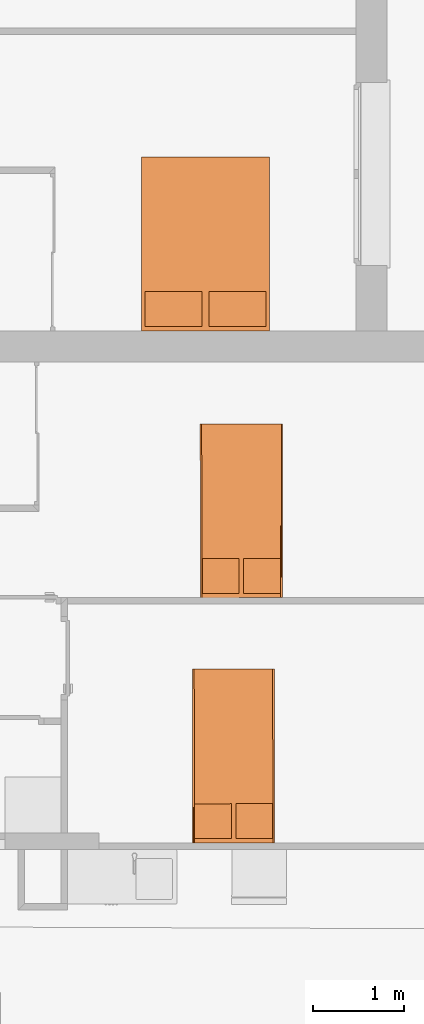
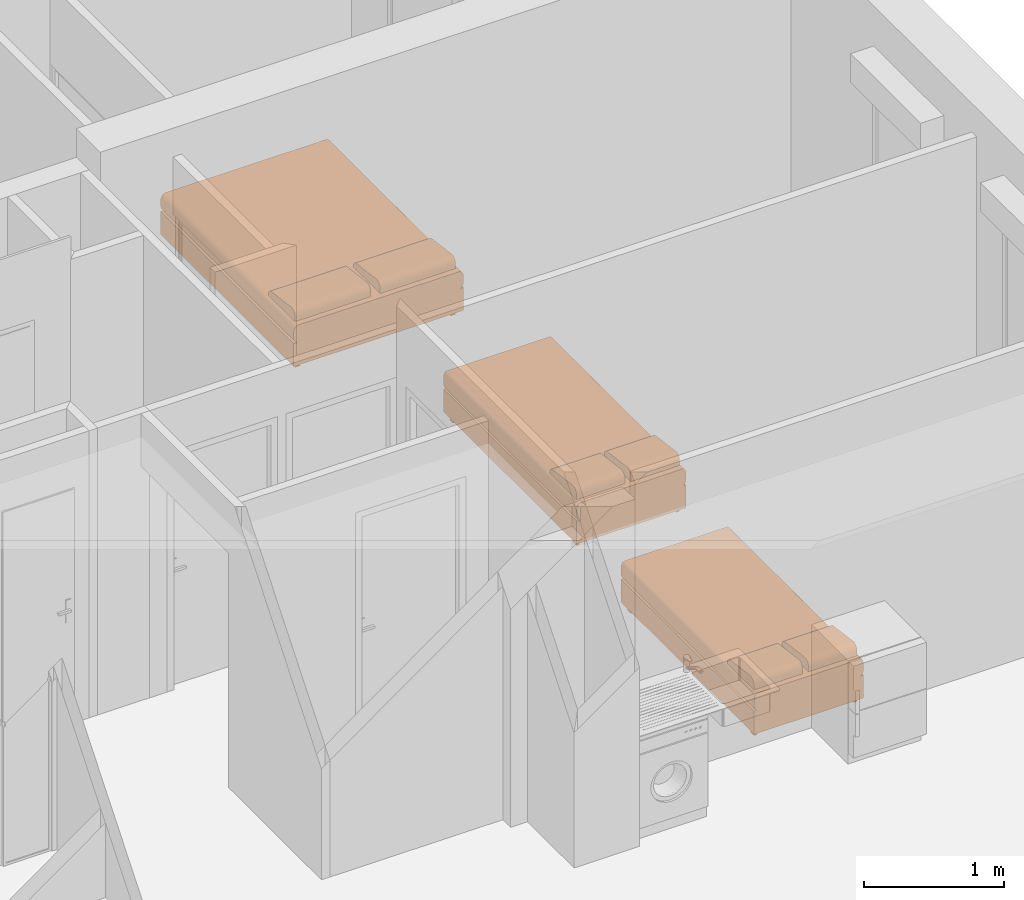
# One storey, part 142 of 164: 3 proxies.
"""IFC2X3 building model written with IfcOpenShell, lengths in millimetres."""

from ifc_helpers import new_model, entity, si_unit, converted_unit, derived_unit, money_unit, direction, frame, origin_with_axes, place, context, subcontext, project, spatial, open_shell, faceted_brep, surface_model, source, transform, mapped, type_object, element, save


model = new_model("IFC2X3")

# Units and contexts
model_context = context("Model", 3, precision=0.01, world=origin_with_axes(), true_north=direction((0.0, 1.0)))
body_context = subcontext(model_context, "Body", "Model", "MODEL_VIEW")
ifc_project = project(units=[si_unit("LENGTHUNIT", "METRE", prefix="MILLI"), si_unit("AREAUNIT", "SQUARE_METRE"), si_unit("VOLUMEUNIT", "CUBIC_METRE"), converted_unit("PLANEANGLEUNIT", "DEGREE", entity("IfcPlaneAngleMeasure", 0.0174532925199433), si_unit("PLANEANGLEUNIT", "RADIAN"), dimensions=[0, 0, 0, 0, 0, 0, 0]), money_unit("USD"), converted_unit("TIMEUNIT", "Year", entity("IfcTimeMeasure", 31557600.0), si_unit("TIMEUNIT", "SECOND"), dimensions=[0, 0, 1, 0, 0, 0, 0]), si_unit("MASSUNIT", "GRAM", prefix="KILO"), si_unit("THERMODYNAMICTEMPERATUREUNIT", "DEGREE_CELSIUS"), si_unit("LUMINOUSINTENSITYUNIT", "LUMEN"), si_unit("ENERGYUNIT", "JOULE", prefix="MEGA"), derived_unit("THERMALCONDUCTANCEUNIT", [(si_unit("POWERUNIT", "WATT"), 1), (si_unit("LENGTHUNIT", "METRE"), -1), (si_unit("THERMODYNAMICTEMPERATUREUNIT", "KELVIN"), -1)]), derived_unit("SPECIFICHEATCAPACITYUNIT", [(si_unit("ENERGYUNIT", "JOULE"), 1), (si_unit("MASSUNIT", "GRAM", prefix="KILO"), -1), (si_unit("THERMODYNAMICTEMPERATUREUNIT", "KELVIN"), -1)]), derived_unit("MASSDENSITYUNIT", [(si_unit("MASSUNIT", "GRAM", prefix="KILO"), 1), (si_unit("VOLUMEUNIT", "CUBIC_METRE"), -1)])], contexts=[model_context])

# Site, building, storey
site_placement = place(None, origin_with_axes())
site = spatial("IfcSite", under=ifc_project, at=site_placement, Name="Site", CompositionType="ELEMENT")
building_placement = place(site_placement, origin_with_axes())
building = spatial("IfcBuilding", under=site, at=building_placement, Name="Bâtiment", CompositionType="ELEMENT")
storey_placement = place(building_placement, frame((0.0, 0.0, 5750.0), z_axis=(0.0, 0.0, 1.0), x_axis=(1.0, 0.0, 0.0)))
storey = spatial("IfcBuildingStorey", under=building, at=storey_placement, Name="Etage1", CompositionType="ELEMENT", Elevation=5750.0)

# Proxies
building_element_proxy_type = type_object("IfcBuildingElementProxyType", PredefinedType="NOTDEFINED")
shared_shape_1 = source(origin_with_axes(), body_context, "Body", "SurfaceModel", [
    faceted_brep([(-400.0, -95.0, 0.0), (-425.0000000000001, -95.0, 0.0), (-425.0000000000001, -47.5, 0.0), (-400.0, -47.5, 0.0), (-400.0, -95.0, 50.0), (-425.0000000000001, -95.0, 50.0), (-425.0000000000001, -47.5, 50.0), (-400.0, -47.5, 50.0)], [[[0, 1, 2, 3]], [[1, 0, 4, 5]], [[2, 1, 5, 6]], [[3, 2, 6, 7]], [[0, 3, 7, 4]], [[5, 4, 7, 6]]]),
    faceted_brep([(-400.0, -1852.5, 0.0), (-425.0000000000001, -1852.5, 0.0), (-425.0000000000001, -1805.0, 0.0), (-400.0, -1805.0, 0.0), (-400.0, -1852.5, 50.0), (-425.0000000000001, -1852.5, 50.0), (-425.0000000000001, -1805.0, 50.0), (-400.0, -1805.0, 50.0)], [[[0, 1, 2, 3]], [[1, 0, 4, 5]], [[2, 1, 5, 6]], [[3, 2, 6, 7]], [[0, 3, 7, 4]], [[5, 4, 7, 6]]]),
    faceted_brep([(425.0000000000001, -1852.5, 0.0), (400.0, -1852.5, 0.0), (400.0, -1805.0, 0.0), (425.0000000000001, -1805.0, 0.0), (425.0000000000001, -1852.5, 50.0), (400.0, -1852.5, 50.0), (400.0, -1805.0, 50.0), (425.0000000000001, -1805.0, 50.0)], [[[0, 1, 2, 3]], [[1, 0, 4, 5]], [[2, 1, 5, 6]], [[3, 2, 6, 7]], [[0, 3, 7, 4]], [[5, 4, 7, 6]]]),
    faceted_brep([(425.0000000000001, -94.99999999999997, 0.0), (400.0, -94.99999999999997, 0.0), (400.0, -47.49999999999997, 0.0), (425.0000000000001, -47.49999999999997, 0.0), (425.0000000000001, -94.99999999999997, 50.0), (400.0, -94.99999999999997, 50.0), (400.0, -47.49999999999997, 50.0), (425.0000000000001, -47.49999999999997, 50.0)], [[[0, 1, 2, 3]], [[1, 0, 4, 5]], [[2, 1, 5, 6]], [[3, 2, 6, 7]], [[0, 3, 7, 4]], [[5, 4, 7, 6]]]),
    faceted_brep([(-450.0, 0.0, 50.0), (450.0, 0.0, 50.0), (450.0, -1900.0, 50.00000000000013), (-450.0, -1900.0, 50.00000000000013), (-450.0, 0.0, 250.0), (450.0, 0.0, 250.0), (450.0, -1900.0, 250.0000000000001), (-450.0, -1900.0, 250.0000000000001)], [[[0, 1, 2, 3]], [[0, 4, 5, 1]], [[1, 5, 6, 2]], [[3, 2, 6, 7]], [[4, 0, 3, 7]], [[5, 4, 7, 6]]]),
    surface_model("IfcShellBasedSurfaceModel", [(425.0000000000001, 0.0, 250.0), (429.3412044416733, 0.0, 250.7596123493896), (429.3412044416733, -1900.0, 250.7596123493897), (425.0000000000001, -1900.0, 250.0000000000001), (-425.0000000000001, 0.0, 250.0), (-429.3412044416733, 0.0, 250.7596123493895), (-433.5505035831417, 0.0, 253.0153689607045), (-437.5, 0.0, 256.698729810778), (-441.0696902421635, 0.0, 261.6977778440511), (-444.1511110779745, 0.0, 267.860619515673), (-446.650635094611, 0.0, 275.0), (-448.4923155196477, 0.0, 282.8989928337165), (-449.6201938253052, 0.0, 291.3175911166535), (-450.0, 0.0, 300.0000000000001), (-450.0000000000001, 0.0, 350.0), (-449.6201938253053, 0.0, 358.6824088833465), (-448.4923155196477, 0.0, 367.1010071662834), (-446.650635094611, 0.0, 375.0), (-444.1511110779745, 0.0, 382.139380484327), (-441.0696902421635, 0.0, 388.3022221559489), (-437.5000000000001, 0.0, 393.301270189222), (-433.5505035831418, 0.0, 396.9846310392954), (-429.3412044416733, 0.0, 399.2403876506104), (-425.0000000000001, 0.0, 400.0), (425.0, 0.0, 400.0000000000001), (429.3412044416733, 0.0, 399.2403876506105), (433.5505035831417, 0.0, 396.9846310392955), (437.5, 0.0, 393.301270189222), (441.0696902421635, 0.0, 388.3022221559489), (444.1511110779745, 0.0, 382.139380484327), (446.6506350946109, 0.0, 375.0000000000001), (448.4923155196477, 0.0, 367.1010071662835), (449.6201938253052, 0.0, 358.6824088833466), (450.0, 0.0, 350.0000000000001), (450.0, 0.0, 300.0000000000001), (449.6201938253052, 0.0, 291.3175911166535), (448.4923155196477, 0.0, 282.8989928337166), (446.650635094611, 0.0, 275.0), (444.1511110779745, 0.0, 267.8606195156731), (441.0696902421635, 0.0, 261.6977778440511), (437.5000000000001, 0.0, 256.698729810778), (433.5505035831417, 0.0, 253.0153689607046), (433.5505035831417, -1900.0, 253.0153689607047), (-425.0000000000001, -1900.0, 250.0000000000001), (437.5000000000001, -1900.0, 256.6987298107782), (441.0696902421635, -1900.0, 261.6977778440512), (444.1511110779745, -1900.0, 267.8606195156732), (446.650635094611, -1900.0, 275.0000000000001), (448.4923155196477, -1900.0, 282.8989928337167), (449.6201938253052, -1900.0, 291.3175911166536), (450.0, -1900.0, 300.0000000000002), (450.0, -1900.0, 350.0000000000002), (449.6201938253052, -1900.0, 358.6824088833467), (448.4923155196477, -1900.0, 367.1010071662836), (446.6506350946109, -1900.0, 375.0000000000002), (444.1511110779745, -1900.0, 382.1393804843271), (441.0696902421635, -1900.0, 388.302222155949), (437.5, -1900.0, 393.3012701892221), (433.5505035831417, -1900.0, 396.9846310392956), (429.3412044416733, -1900.0, 399.2403876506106), (425.0, -1900.0, 400.0000000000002), (-425.0000000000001, -1900.0, 400.0000000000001), (-429.3412044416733, -1900.0, 399.2403876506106), (-433.5505035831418, -1900.0, 396.9846310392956), (-437.5000000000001, -1900.0, 393.3012701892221), (-441.0696902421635, -1900.0, 388.302222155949), (-444.1511110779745, -1900.0, 382.1393804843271), (-446.650635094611, -1900.0, 375.0000000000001), (-448.4923155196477, -1900.0, 367.1010071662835), (-449.6201938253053, -1900.0, 358.6824088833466), (-450.0000000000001, -1900.0, 350.0000000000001), (-450.0, -1900.0, 300.0000000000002), (-449.6201938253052, -1900.0, 291.3175911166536), (-448.4923155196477, -1900.0, 282.8989928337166), (-446.650635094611, -1900.0, 275.0000000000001), (-444.1511110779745, -1900.0, 267.8606195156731), (-441.0696902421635, -1900.0, 261.6977778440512), (-437.5, -1900.0, 256.6987298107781), (-433.5505035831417, -1900.0, 253.0153689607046), (-429.3412044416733, -1900.0, 250.7596123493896)], [open_shell([[[0, 1, 2, 3]], [[4, 5, 6, 7, 8, 9, 10, 11, 12, 13, 14, 15, 16, 17, 18, 19, 20, 21, 22, 23, 24, 25, 26, 27, 28, 29, 30, 31, 32, 33, 34, 35, 36, 37, 38, 39, 40, 41, 1, 0]], [[1, 41, 42, 2]], [[43, 3, 2, 42, 44, 45, 46, 47, 48, 49, 50, 51, 52, 53, 54, 55, 56, 57, 58, 59, 60, 61, 62, 63, 64, 65, 66, 67, 68, 69, 70, 71, 72, 73, 74, 75, 76, 77, 78, 79]], [[5, 4, 43, 79]], [[6, 5, 79, 78]], [[7, 6, 78, 77]], [[8, 7, 77, 76]], [[9, 8, 76, 75]], [[10, 9, 75, 74]], [[11, 10, 74, 73]], [[12, 11, 73, 72]], [[13, 12, 72, 71]], [[14, 13, 71, 70]], [[15, 14, 70, 69]], [[16, 15, 69, 68]], [[17, 16, 68, 67]], [[18, 17, 67, 66]], [[19, 18, 66, 65]], [[20, 19, 65, 64]], [[21, 20, 64, 63]], [[22, 21, 63, 62]], [[23, 22, 62, 61]], [[24, 23, 61, 60]], [[25, 24, 60, 59]], [[26, 25, 59, 58]], [[27, 26, 58, 57]], [[28, 27, 57, 56]], [[29, 28, 56, 55]], [[30, 29, 55, 54]], [[31, 30, 54, 53]], [[32, 31, 53, 52]], [[33, 32, 52, 51]], [[34, 33, 51, 50]], [[35, 34, 50, 49]], [[36, 35, 49, 48]], [[37, 36, 48, 47]], [[38, 37, 47, 46]], [[39, 38, 46, 45]], [[40, 39, 45, 44]], [[41, 40, 44, 42]]])]),
    faceted_brep([(24.99999999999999, -47.49999999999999, 400.0), (24.99999999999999, -47.49999999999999, 443.4), (425.0, -47.50000000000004, 443.4000000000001), (425.0, -47.50000000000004, 400.0000000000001), (24.99999999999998, -427.5, 400.0), (24.99999999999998, -427.6960812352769, 408.695442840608), (24.99999999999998, -426.4675711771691, 417.2966661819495), (24.99999999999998, -423.8511300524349, 425.5469991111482), (24.99999999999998, -419.9248356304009, 433.2002417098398), (24.99999999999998, -414.8058532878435, 440.0280119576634), (24.99999999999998, -408.6469396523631, 445.826560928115), (24.99999999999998, -401.6318841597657, 450.4228529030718), (24.99999999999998, -393.9700245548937, 453.6797289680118), (24.99999999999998, -385.89, 455.5), (24.99999999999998, -100.89, 493.0000000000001), (24.99999999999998, -92.85488048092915, 493.3370808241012), (24.99999999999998, -84.88093291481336, 492.2422169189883), (24.99999999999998, -77.19681007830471, 489.7468034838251), (24.99999999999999, -70.02285403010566, 485.922396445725), (24.99999999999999, -63.56477780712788, 480.878660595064), (24.99999999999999, -58.00776660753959, 474.7602249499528), (24.99999999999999, -53.51116760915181, 467.7425355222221), (24.99999999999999, -50.20392069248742, 460.0268244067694), (24.99999999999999, -48.18086109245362, 451.834339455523), (425.0, -48.18086109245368, 451.8343394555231), (425.0, -50.20392069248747, 460.0268244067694), (425.0, -53.51116760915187, 467.7425355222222), (425.0, -58.00776660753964, 474.7602249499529), (425.0, -63.56477780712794, 480.878660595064), (425.0, -70.02285403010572, 485.922396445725), (425.0, -77.19681007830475, 489.7468034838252), (425.0, -84.88093291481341, 492.2422169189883), (425.0, -92.85488048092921, 493.3370808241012), (425.0, -100.8900000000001, 493.0000000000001), (425.0, -385.89, 455.5000000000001), (425.0, -393.9700245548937, 453.6797289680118), (425.0, -401.6318841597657, 450.4228529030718), (425.0, -408.6469396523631, 445.826560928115), (425.0, -414.8058532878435, 440.0280119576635), (425.0, -419.924835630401, 433.2002417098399), (425.0, -423.8511300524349, 425.5469991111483), (425.0, -426.4675711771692, 417.2966661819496), (425.0, -427.6960812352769, 408.6954428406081), (425.0, -427.5, 400.0000000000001)], [[[0, 1, 2, 3]], [[0, 4, 5, 6, 7, 8, 9, 10, 11, 12, 13, 14, 15, 16, 17, 18, 19, 20, 21, 22, 23, 1]], [[1, 23, 24, 2]], [[3, 2, 24, 25, 26, 27, 28, 29, 30, 31, 32, 33, 34, 35, 36, 37, 38, 39, 40, 41, 42, 43]], [[4, 0, 3, 43]], [[5, 4, 43, 42]], [[6, 5, 42, 41]], [[7, 6, 41, 40]], [[8, 7, 40, 39]], [[9, 8, 39, 38]], [[10, 9, 38, 37]], [[11, 10, 37, 36]], [[12, 11, 36, 35]], [[13, 12, 35, 34]], [[14, 13, 34, 33]], [[15, 14, 33, 32]], [[16, 15, 32, 31]], [[17, 16, 31, 30]], [[18, 17, 30, 29]], [[19, 18, 29, 28]], [[20, 19, 28, 27]], [[21, 20, 27, 26]], [[22, 21, 26, 25]], [[23, 22, 25, 24]]]),
    faceted_brep([(-425.0000000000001, -47.49999999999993, 399.9999999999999), (-425.0000000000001, -47.49999999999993, 443.4), (-25.00000000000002, -47.49999999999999, 443.4), (-25.00000000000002, -47.49999999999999, 400.0), (-425.0000000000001, -427.4999999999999, 399.9999999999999), (-425.0000000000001, -427.6960812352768, 408.6954428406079), (-425.0000000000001, -426.4675711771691, 417.2966661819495), (-425.0000000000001, -423.8511300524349, 425.5469991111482), (-425.0000000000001, -419.9248356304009, 433.2002417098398), (-425.0000000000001, -414.8058532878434, 440.0280119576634), (-425.0000000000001, -408.646939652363, 445.8265609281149), (-425.0000000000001, -401.6318841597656, 450.4228529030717), (-425.0000000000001, -393.9700245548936, 453.6797289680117), (-425.0000000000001, -385.8899999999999, 455.4999999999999), (-425.0000000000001, -100.89, 493.0), (-425.0000000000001, -92.8548804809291, 493.3370808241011), (-425.0000000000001, -84.8809329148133, 492.2422169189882), (-425.0000000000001, -77.19681007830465, 489.7468034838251), (-425.0000000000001, -70.0228540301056, 485.9223964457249), (-425.0000000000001, -63.56477780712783, 480.8786605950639), (-425.0000000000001, -58.00776660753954, 474.7602249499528), (-425.0000000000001, -53.51116760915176, 467.7425355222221), (-425.0000000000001, -50.20392069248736, 460.0268244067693), (-425.0000000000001, -48.18086109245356, 451.834339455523), (-25.00000000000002, -48.18086109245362, 451.834339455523), (-25.00000000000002, -50.20392069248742, 460.0268244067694), (-25.00000000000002, -53.51116760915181, 467.7425355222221), (-25.00000000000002, -58.00776660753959, 474.7602249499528), (-25.00000000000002, -63.56477780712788, 480.878660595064), (-25.00000000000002, -70.02285403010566, 485.922396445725), (-25.00000000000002, -77.19681007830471, 489.7468034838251), (-25.00000000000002, -84.88093291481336, 492.2422169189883), (-25.00000000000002, -92.85488048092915, 493.3370808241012), (-25.00000000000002, -100.89, 493.0000000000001), (-25.00000000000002, -385.8899999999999, 455.5), (-25.00000000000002, -393.9700245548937, 453.6797289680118), (-25.00000000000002, -401.6318841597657, 450.4228529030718), (-25.00000000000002, -408.6469396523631, 445.826560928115), (-25.00000000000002, -414.8058532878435, 440.0280119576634), (-25.00000000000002, -419.9248356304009, 433.2002417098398), (-25.00000000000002, -423.8511300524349, 425.5469991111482), (-25.00000000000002, -426.4675711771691, 417.2966661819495), (-25.00000000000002, -427.6960812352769, 408.695442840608), (-25.00000000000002, -427.4999999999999, 400.0)], [[[0, 1, 2, 3]], [[0, 4, 5, 6, 7, 8, 9, 10, 11, 12, 13, 14, 15, 16, 17, 18, 19, 20, 21, 22, 23, 1]], [[1, 23, 24, 2]], [[3, 2, 24, 25, 26, 27, 28, 29, 30, 31, 32, 33, 34, 35, 36, 37, 38, 39, 40, 41, 42, 43]], [[4, 0, 3, 43]], [[5, 4, 43, 42]], [[6, 5, 42, 41]], [[7, 6, 41, 40]], [[8, 7, 40, 39]], [[9, 8, 39, 38]], [[10, 9, 38, 37]], [[11, 10, 37, 36]], [[12, 11, 36, 35]], [[13, 12, 35, 34]], [[14, 13, 34, 33]], [[15, 14, 33, 32]], [[16, 15, 32, 31]], [[17, 16, 31, 30]], [[18, 17, 30, 29]], [[19, 18, 29, 28]], [[20, 19, 28, 27]], [[21, 20, 27, 26]], [[22, 21, 26, 25]], [[23, 22, 25, 24]]]),
])
for number, where, z_axis, x_axis, name in (
    (1, (2231211.776002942, -649659.8657158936, 0.0), (0.0, 0.0, 1.0), (-0.9999998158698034, -0.0006068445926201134, 0.0), "Obj.-003"),
    (2, (2231125.570279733, -652341.7887185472, 0.0), (0.0, 0.0, 1.0), (-0.9999998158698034, -0.0006068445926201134, 0.0), "Obj.-003"),
):
    element("IfcBuildingElementProxy", number, at=place(storey_placement, frame(where, z_axis=z_axis, x_axis=x_axis)), inside=storey, type_object=building_element_proxy_type, Name=name, context=body_context, shape_type="MappedRepresentation", body=[
        mapped(shared_shape_1, transform((0.0, 0.0, 0.0))),
    ])
shared_shape_2 = source(origin_with_axes(), body_context, "Body", "SurfaceModel", [
    faceted_brep([(622.2222222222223, -95.0, 0.0), (622.2222222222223, -47.5, 0.0), (661.1111111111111, -47.5, 0.0), (661.1111111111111, -95.0, 0.0), (622.2222222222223, -95.0, 50.0), (622.2222222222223, -47.5, 50.0), (661.1111111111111, -47.5, 50.0), (661.1111111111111, -95.0, 50.0)], [[[0, 1, 2, 3]], [[0, 4, 5, 1]], [[1, 5, 6, 2]], [[2, 6, 7, 3]], [[3, 7, 4, 0]], [[7, 6, 5, 4]]]),
    faceted_brep([(622.2222222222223, -1852.5, 0.0), (622.2222222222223, -1805.0, 0.0), (661.1111111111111, -1805.0, 0.0), (661.1111111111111, -1852.5, 0.0), (622.2222222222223, -1852.5, 50.0), (622.2222222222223, -1805.0, 50.0), (661.1111111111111, -1805.0, 50.0), (661.1111111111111, -1852.5, 50.0)], [[[0, 1, 2, 3]], [[0, 4, 5, 1]], [[1, 5, 6, 2]], [[2, 6, 7, 3]], [[3, 7, 4, 0]], [[7, 6, 5, 4]]]),
    faceted_brep([(-661.111111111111, -1852.5, 0.0), (-661.111111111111, -1805.0, 0.0), (-622.2222222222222, -1805.0, 0.0), (-622.2222222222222, -1852.5, 0.0), (-661.111111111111, -1852.5, 50.0), (-661.111111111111, -1805.0, 50.0), (-622.2222222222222, -1805.0, 50.0), (-622.2222222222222, -1852.5, 50.0)], [[[0, 1, 2, 3]], [[0, 4, 5, 1]], [[1, 5, 6, 2]], [[2, 6, 7, 3]], [[3, 7, 4, 0]], [[7, 6, 5, 4]]]),
    faceted_brep([(-661.111111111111, -94.99999999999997, 0.0), (-661.111111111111, -47.49999999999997, 0.0), (-622.2222222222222, -47.49999999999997, 0.0), (-622.2222222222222, -94.99999999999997, 0.0), (-661.111111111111, -94.99999999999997, 50.0), (-661.111111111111, -47.49999999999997, 50.0), (-622.2222222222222, -47.49999999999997, 50.0), (-622.2222222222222, -94.99999999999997, 50.0)], [[[0, 1, 2, 3]], [[0, 4, 5, 1]], [[1, 5, 6, 2]], [[2, 6, 7, 3]], [[3, 7, 4, 0]], [[7, 6, 5, 4]]]),
    faceted_brep([(700.0, 0.0, 50.0), (700.0, -1900.0, 50.00000000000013), (-700.0, -1900.0, 50.00000000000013), (-700.0, 0.0, 50.0), (700.0, 0.0, 250.0), (700.0, -1900.0, 250.0000000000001), (-700.0, -1900.0, 250.0000000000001), (-700.0, 0.0, 250.0)], [[[0, 1, 2, 3]], [[4, 5, 1, 0]], [[1, 5, 6, 2]], [[3, 2, 6, 7]], [[0, 3, 7, 4]], [[7, 6, 5, 4]]]),
    surface_model("IfcShellBasedSurfaceModel", [(-661.1111111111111, 0.0, 250.0), (-661.1111111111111, -1900.0, 250.0000000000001), (-667.8640957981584, -1900.0, 250.7596123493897), (-667.8640957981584, 0.0, 250.7596123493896), (661.1111111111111, -1900.0, 250.0000000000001), (667.8640957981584, -1900.0, 250.7596123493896), (674.4118944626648, -1900.0, 253.0153689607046), (680.5555555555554, -1900.0, 256.6987298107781), (686.1084070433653, -1900.0, 261.6977778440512), (690.9017283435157, -1900.0, 267.8606195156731), (694.7898768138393, -1900.0, 275.0000000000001), (697.654713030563, -1900.0, 282.8989928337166), (699.4091903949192, -1900.0, 291.3175911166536), (700.0, -1900.0, 300.0000000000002), (700.0000000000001, -1900.0, 350.0000000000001), (699.4091903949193, -1900.0, 358.6824088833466), (697.654713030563, -1900.0, 367.1010071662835), (694.7898768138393, -1900.0, 375.0000000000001), (690.9017283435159, -1900.0, 382.1393804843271), (686.1084070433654, -1900.0, 388.302222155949), (680.5555555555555, -1900.0, 393.3012701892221), (674.4118944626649, -1900.0, 396.9846310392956), (667.8640957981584, -1900.0, 399.2403876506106), (661.1111111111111, -1900.0, 400.0000000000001), (-661.111111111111, -1900.0, 400.0000000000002), (-667.8640957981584, -1900.0, 399.2403876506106), (-674.4118944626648, -1900.0, 396.9846310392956), (-680.5555555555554, -1900.0, 393.3012701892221), (-686.1084070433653, -1900.0, 388.302222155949), (-690.9017283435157, -1900.0, 382.1393804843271), (-694.7898768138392, -1900.0, 375.0000000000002), (-697.654713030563, -1900.0, 367.1010071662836), (-699.4091903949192, -1900.0, 358.6824088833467), (-700.0, -1900.0, 350.0000000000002), (-700.0, -1900.0, 300.0000000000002), (-699.4091903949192, -1900.0, 291.3175911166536), (-697.654713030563, -1900.0, 282.8989928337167), (-694.7898768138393, -1900.0, 275.0000000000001), (-690.9017283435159, -1900.0, 267.8606195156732), (-686.1084070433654, -1900.0, 261.6977778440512), (-680.5555555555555, -1900.0, 256.6987298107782), (-674.4118944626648, -1900.0, 253.0153689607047), (-674.4118944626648, 0.0, 253.0153689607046), (661.1111111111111, 0.0, 250.0), (-680.5555555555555, 0.0, 256.698729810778), (-686.1084070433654, 0.0, 261.6977778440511), (-690.9017283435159, 0.0, 267.8606195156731), (-694.7898768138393, 0.0, 275.0), (-697.654713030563, 0.0, 282.8989928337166), (-699.4091903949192, 0.0, 291.3175911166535), (-700.0, 0.0, 300.0000000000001), (-700.0, 0.0, 350.0000000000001), (-699.4091903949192, 0.0, 358.6824088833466), (-697.654713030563, 0.0, 367.1010071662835), (-694.7898768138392, 0.0, 375.0000000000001), (-690.9017283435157, 0.0, 382.139380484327), (-686.1084070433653, 0.0, 388.3022221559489), (-680.5555555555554, 0.0, 393.301270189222), (-674.4118944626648, 0.0, 396.9846310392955), (-667.8640957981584, 0.0, 399.2403876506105), (-661.111111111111, 0.0, 400.0000000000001), (661.1111111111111, 0.0, 400.0), (667.8640957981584, 0.0, 399.2403876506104), (674.4118944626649, 0.0, 396.9846310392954), (680.5555555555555, 0.0, 393.301270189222), (686.1084070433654, 0.0, 388.3022221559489), (690.9017283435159, 0.0, 382.139380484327), (694.7898768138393, 0.0, 375.0), (697.654713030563, 0.0, 367.1010071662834), (699.4091903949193, 0.0, 358.6824088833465), (700.0000000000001, 0.0, 350.0), (700.0, 0.0, 300.0000000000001), (699.4091903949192, 0.0, 291.3175911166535), (697.654713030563, 0.0, 282.8989928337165), (694.7898768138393, 0.0, 275.0), (690.9017283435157, 0.0, 267.860619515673), (686.1084070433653, 0.0, 261.6977778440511), (680.5555555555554, 0.0, 256.698729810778), (674.4118944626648, 0.0, 253.0153689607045), (667.8640957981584, 0.0, 250.7596123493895)], [open_shell([[[0, 1, 2, 3]], [[4, 5, 6, 7, 8, 9, 10, 11, 12, 13, 14, 15, 16, 17, 18, 19, 20, 21, 22, 23, 24, 25, 26, 27, 28, 29, 30, 31, 32, 33, 34, 35, 36, 37, 38, 39, 40, 41, 2, 1]], [[3, 2, 41, 42]], [[43, 0, 3, 42, 44, 45, 46, 47, 48, 49, 50, 51, 52, 53, 54, 55, 56, 57, 58, 59, 60, 61, 62, 63, 64, 65, 66, 67, 68, 69, 70, 71, 72, 73, 74, 75, 76, 77, 78, 79]], [[79, 5, 4, 43]], [[78, 6, 5, 79]], [[77, 7, 6, 78]], [[76, 8, 7, 77]], [[75, 9, 8, 76]], [[74, 10, 9, 75]], [[73, 11, 10, 74]], [[72, 12, 11, 73]], [[71, 13, 12, 72]], [[70, 14, 13, 71]], [[69, 15, 14, 70]], [[68, 16, 15, 69]], [[67, 17, 16, 68]], [[66, 18, 17, 67]], [[65, 19, 18, 66]], [[64, 20, 19, 65]], [[63, 21, 20, 64]], [[62, 22, 21, 63]], [[61, 23, 22, 62]], [[60, 24, 23, 61]], [[59, 25, 24, 60]], [[58, 26, 25, 59]], [[57, 27, 26, 58]], [[56, 28, 27, 57]], [[55, 29, 28, 56]], [[54, 30, 29, 55]], [[53, 31, 30, 54]], [[52, 32, 31, 53]], [[51, 33, 32, 52]], [[50, 34, 33, 51]], [[49, 35, 34, 50]], [[48, 36, 35, 49]], [[47, 37, 36, 48]], [[46, 38, 37, 47]], [[45, 39, 38, 46]], [[44, 40, 39, 45]], [[42, 41, 40, 44]]])]),
    faceted_brep([(-38.88888888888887, -47.49999999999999, 400.0), (-661.1111111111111, -47.50000000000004, 400.0000000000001), (-661.1111111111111, -47.50000000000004, 443.4000000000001), (-38.88888888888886, -47.49999999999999, 443.4), (-38.88888888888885, -427.5, 400.0), (-661.1111111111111, -427.5, 400.0000000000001), (-661.1111111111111, -427.6960812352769, 408.6954428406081), (-661.1111111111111, -426.4675711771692, 417.2966661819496), (-661.1111111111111, -423.8511300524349, 425.5469991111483), (-661.1111111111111, -419.924835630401, 433.2002417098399), (-661.1111111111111, -414.8058532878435, 440.0280119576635), (-661.1111111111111, -408.6469396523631, 445.826560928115), (-661.1111111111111, -401.6318841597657, 450.4228529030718), (-661.1111111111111, -393.9700245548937, 453.6797289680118), (-661.1111111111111, -385.89, 455.5000000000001), (-661.1111111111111, -100.8900000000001, 493.0000000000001), (-661.1111111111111, -92.85488048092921, 493.3370808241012), (-661.1111111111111, -84.88093291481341, 492.2422169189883), (-661.1111111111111, -77.19681007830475, 489.7468034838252), (-661.1111111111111, -70.02285403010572, 485.922396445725), (-661.1111111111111, -63.56477780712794, 480.878660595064), (-661.1111111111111, -58.00776660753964, 474.7602249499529), (-661.1111111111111, -53.51116760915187, 467.7425355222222), (-661.1111111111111, -50.20392069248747, 460.0268244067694), (-661.1111111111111, -48.18086109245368, 451.8343394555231), (-38.88888888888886, -48.18086109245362, 451.834339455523), (-38.88888888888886, -50.20392069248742, 460.0268244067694), (-38.88888888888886, -53.51116760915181, 467.7425355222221), (-38.88888888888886, -58.00776660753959, 474.7602249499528), (-38.88888888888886, -63.56477780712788, 480.878660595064), (-38.88888888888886, -70.02285403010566, 485.922396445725), (-38.88888888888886, -77.19681007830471, 489.7468034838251), (-38.88888888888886, -84.88093291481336, 492.2422169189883), (-38.88888888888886, -92.85488048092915, 493.3370808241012), (-38.88888888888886, -100.89, 493.0000000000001), (-38.88888888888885, -385.89, 455.5), (-38.88888888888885, -393.9700245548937, 453.6797289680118), (-38.88888888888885, -401.6318841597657, 450.4228529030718), (-38.88888888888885, -408.6469396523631, 445.826560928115), (-38.88888888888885, -414.8058532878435, 440.0280119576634), (-38.88888888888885, -419.9248356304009, 433.2002417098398), (-38.88888888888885, -423.8511300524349, 425.5469991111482), (-38.88888888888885, -426.4675711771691, 417.2966661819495), (-38.88888888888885, -427.6960812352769, 408.695442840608)], [[[0, 1, 2, 3]], [[4, 5, 1, 0]], [[1, 5, 6, 7, 8, 9, 10, 11, 12, 13, 14, 15, 16, 17, 18, 19, 20, 21, 22, 23, 24, 2]], [[3, 2, 24, 25]], [[0, 3, 25, 26, 27, 28, 29, 30, 31, 32, 33, 34, 35, 36, 37, 38, 39, 40, 41, 42, 43, 4]], [[43, 6, 5, 4]], [[42, 7, 6, 43]], [[41, 8, 7, 42]], [[40, 9, 8, 41]], [[39, 10, 9, 40]], [[38, 11, 10, 39]], [[37, 12, 11, 38]], [[36, 13, 12, 37]], [[35, 14, 13, 36]], [[34, 15, 14, 35]], [[33, 16, 15, 34]], [[32, 17, 16, 33]], [[31, 18, 17, 32]], [[30, 19, 18, 31]], [[29, 20, 19, 30]], [[28, 21, 20, 29]], [[27, 22, 21, 28]], [[26, 23, 22, 27]], [[25, 24, 23, 26]]]),
    faceted_brep([(661.1111111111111, -47.49999999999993, 399.9999999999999), (38.88888888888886, -47.49999999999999, 400.0), (38.88888888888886, -47.49999999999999, 443.4), (661.1111111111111, -47.49999999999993, 443.4), (661.1111111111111, -427.4999999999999, 399.9999999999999), (38.88888888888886, -427.4999999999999, 400.0), (38.88888888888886, -427.6960812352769, 408.695442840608), (38.88888888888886, -426.4675711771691, 417.2966661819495), (38.88888888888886, -423.8511300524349, 425.5469991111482), (38.88888888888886, -419.9248356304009, 433.2002417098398), (38.88888888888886, -414.8058532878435, 440.0280119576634), (38.88888888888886, -408.6469396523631, 445.826560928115), (38.88888888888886, -401.6318841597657, 450.4228529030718), (38.88888888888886, -393.9700245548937, 453.6797289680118), (38.88888888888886, -385.8899999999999, 455.5), (38.88888888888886, -100.89, 493.0000000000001), (38.88888888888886, -92.85488048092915, 493.3370808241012), (38.88888888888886, -84.88093291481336, 492.2422169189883), (38.88888888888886, -77.19681007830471, 489.7468034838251), (38.88888888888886, -70.02285403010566, 485.922396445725), (38.88888888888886, -63.56477780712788, 480.878660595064), (38.88888888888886, -58.00776660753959, 474.7602249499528), (38.88888888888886, -53.51116760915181, 467.7425355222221), (38.88888888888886, -50.20392069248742, 460.0268244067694), (38.88888888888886, -48.18086109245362, 451.834339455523), (661.1111111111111, -48.18086109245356, 451.834339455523), (661.1111111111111, -50.20392069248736, 460.0268244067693), (661.1111111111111, -53.51116760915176, 467.7425355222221), (661.1111111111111, -58.00776660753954, 474.7602249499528), (661.1111111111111, -63.56477780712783, 480.8786605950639), (661.1111111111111, -70.0228540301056, 485.9223964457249), (661.1111111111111, -77.19681007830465, 489.7468034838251), (661.1111111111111, -84.8809329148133, 492.2422169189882), (661.1111111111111, -92.8548804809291, 493.3370808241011), (661.1111111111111, -100.89, 493.0), (661.1111111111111, -385.8899999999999, 455.4999999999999), (661.1111111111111, -393.9700245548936, 453.6797289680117), (661.1111111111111, -401.6318841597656, 450.4228529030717), (661.1111111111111, -408.646939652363, 445.8265609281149), (661.1111111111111, -414.8058532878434, 440.0280119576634), (661.1111111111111, -419.9248356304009, 433.2002417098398), (661.1111111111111, -423.8511300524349, 425.5469991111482), (661.1111111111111, -426.4675711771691, 417.2966661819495), (661.1111111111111, -427.6960812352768, 408.6954428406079)], [[[0, 1, 2, 3]], [[4, 5, 1, 0]], [[1, 5, 6, 7, 8, 9, 10, 11, 12, 13, 14, 15, 16, 17, 18, 19, 20, 21, 22, 23, 24, 2]], [[3, 2, 24, 25]], [[0, 3, 25, 26, 27, 28, 29, 30, 31, 32, 33, 34, 35, 36, 37, 38, 39, 40, 41, 42, 43, 4]], [[43, 6, 5, 4]], [[42, 7, 6, 43]], [[41, 8, 7, 42]], [[40, 9, 8, 41]], [[39, 10, 9, 40]], [[38, 11, 10, 39]], [[37, 12, 11, 38]], [[36, 13, 12, 37]], [[35, 14, 13, 36]], [[34, 15, 14, 35]], [[33, 16, 15, 34]], [[32, 17, 16, 33]], [[31, 18, 17, 32]], [[30, 19, 18, 31]], [[29, 20, 19, 30]], [[28, 21, 20, 29]], [[27, 22, 21, 28]], [[26, 23, 22, 27]], [[25, 24, 23, 26]]]),
])
proxy_placement = place(storey_placement, frame((2230817.110860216, -646738.3651199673, 0.0), z_axis=(0.0, 0.0, 1.0), x_axis=(-0.9999999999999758, -2.201927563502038e-07, 0.0)))
element("IfcBuildingElementProxy", 3, at=proxy_placement, inside=storey, type_object=building_element_proxy_type, Name="Obj.-003", context=body_context, shape_type="MappedRepresentation", body=[
    mapped(shared_shape_2, transform((0.0, 0.0, 0.0))),
])

save(model, "model.ifc")
